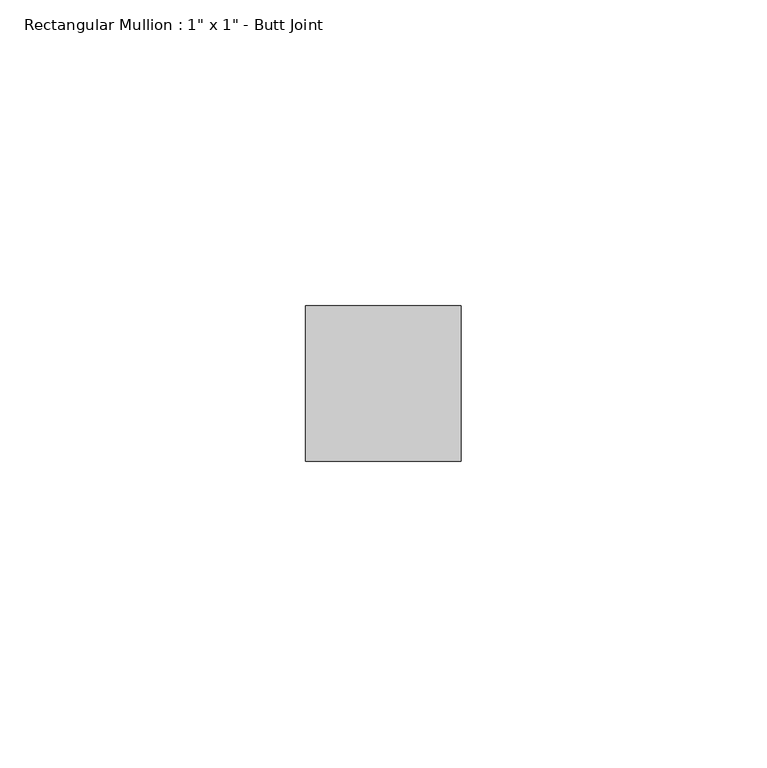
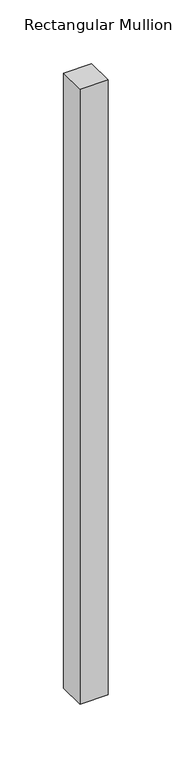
"""IFC4 building model written with IfcOpenShell, lengths in millimetres: member geometry."""

import ifcopenshell
import ifcopenshell.guid

model = None  # the IFC model being written
_history = None  # IfcOwnerHistory: only IFC2X3 demands one
_inside = {}  # id of a spatial element -> (the spatial element, [elements in it])
_under = {}  # id of a project, library or spatial element -> (it, [spatial elements below it])
_declared = {}  # id of a project -> (the project, [libraries it declares])
_typed = {}  # id of a type object -> (the type object, [elements of that type])
_made_of = {}  # id of a material, layer set ... -> (it, [elements and type objects made of it])


def new_model(schema):
    """Start an empty IFC model of exactly this schema.

    Asked for "IFC4X3", IfcOpenShell would pick the latest addendum, in which some entities
    have other attributes; the version numbers below select the first issue.
    IFC2X3 requires an IfcOwnerHistory on every rooted entity: one is made here for all.
    """
    global model, _history
    if schema == "IFC4X3":
        model = ifcopenshell.file(schema_version=(4, 3, 0, 0))
    else:
        model = ifcopenshell.file(schema=schema)
    _inside.clear()
    _under.clear()
    _declared.clear()
    _typed.clear()
    _made_of.clear()
    _history = None
    if model.schema == "IFC2X3":
        org = make("IfcOrganization", Name="unknown")
        user = make(
            "IfcPersonAndOrganization",
            ThePerson=make("IfcPerson", FamilyName="unknown"),
            TheOrganization=org,
        )
        app = make(
            "IfcApplication",
            ApplicationDeveloper=org,
            Version="unknown",
            ApplicationFullName="unknown",
            ApplicationIdentifier="unknown",
        )
        _history = make(
            "IfcOwnerHistory",
            OwningUser=user,
            OwningApplication=app,
            ChangeAction="ADDED",
            CreationDate=0,
        )
    return model


def make(cls, **values):
    """One entity of the class cls with the attributes given. An attribute that is None is left unset."""
    return model.create_entity(
        cls, **{name: value for name, value in values.items() if value is not None}
    )


def rooted(cls, **values):
    """An entity with a GlobalId (a new one), such as an element, a storey or a relation."""
    return make(cls, GlobalId=ifcopenshell.guid.new(), OwnerHistory=_history, **values)


def si_unit(unit_type, name, prefix=None):
    """IfcSIUnit, for example si_unit("LENGTHUNIT", "METRE", prefix="MILLI")."""
    return make("IfcSIUnit", UnitType=unit_type, Prefix=prefix, Name=name)


def assignment(units):
    """IfcUnitAssignment: the units of a project."""
    return None if units is None else make("IfcUnitAssignment", Units=units)


def point(xyz):
    """IfcCartesianPoint."""
    return None if xyz is None else make("IfcCartesianPoint", Coordinates=xyz)


def direction(xyz):
    """IfcDirection."""
    return None if xyz is None else make("IfcDirection", DirectionRatios=xyz)


def frame(location, z_axis=None, x_axis=None):
    """IfcAxis2Placement3D, a coordinate frame: its origin and axes. An axis left out is left unset."""
    return make(
        "IfcAxis2Placement3D",
        Location=point(location),
        Axis=direction(z_axis),
        RefDirection=direction(x_axis),
    )


def origin():
    """The frame at (0, 0, 0) with its axes left unset."""
    return frame((0.0, 0.0, 0.0))


def place(relative_to, where):
    """IfcLocalPlacement: puts the frame where relative to a parent placement (None: the world)."""
    return make(
        "IfcLocalPlacement", PlacementRelTo=relative_to, RelativePlacement=where
    )


def context(
    kind, dimensions, precision=None, world=None, true_north=None, identifier=None
):
    """IfcGeometricRepresentationContext, for example the 3D "Model" context."""
    return make(
        "IfcGeometricRepresentationContext",
        ContextIdentifier=identifier,
        ContextType=kind,
        CoordinateSpaceDimension=dimensions,
        Precision=precision,
        WorldCoordinateSystem=world,
        TrueNorth=true_north,
    )


def project(units=None, contexts=None):
    """IfcProject with its units and contexts."""
    return rooted(
        "IfcProject",
        Name="project",
        RepresentationContexts=contexts,
        UnitsInContext=assignment(units),
    )


def spatial(cls, under=None, at=None, **own):
    """A site, building, storey or space (cls), placed at a placement, below another one or the project."""
    s = rooted(cls, ObjectPlacement=at, **own)
    if under is not None:
        _under.setdefault(under.id(), (under, []))[1].append(s)
    return s


def polyline(points):
    """IfcPolyline through the points."""
    return make("IfcPolyline", Points=[point(p) for p in points])


def outline(outer, holes=None, kind="AREA"):
    """IfcArbitraryClosedProfileDef: a profile drawn as a closed curve; with holes, ...WithVoids."""
    if holes is None:
        return make("IfcArbitraryClosedProfileDef", ProfileType=kind, OuterCurve=outer)
    return make(
        "IfcArbitraryProfileDefWithVoids",
        ProfileType=kind,
        OuterCurve=outer,
        InnerCurves=holes,
    )


def extrude(swept, where, along, depth):
    """IfcExtrudedAreaSolid: the profile swept, set in the frame where, extruded along a direction by depth."""
    return make(
        "IfcExtrudedAreaSolid",
        SweptArea=swept,
        Position=where,
        ExtrudedDirection=direction(along),
        Depth=depth,
    )


def shape(context_of_items, identifier, shape_type, items):
    """IfcShapeRepresentation: the items that make up one representation, for example the "Body"."""
    return make(
        "IfcShapeRepresentation",
        ContextOfItems=context_of_items,
        RepresentationIdentifier=identifier,
        RepresentationType=shape_type,
        Items=items,
    )


def source(mapping_origin, context_of_items, identifier, shape_type, items):
    """IfcRepresentationMap: a shape defined once, which mapped items show again and again."""
    return make(
        "IfcRepresentationMap",
        MappingOrigin=mapping_origin,
        MappedRepresentation=shape(context_of_items, identifier, shape_type, items),
    )


def transform(
    local_origin,
    x_axis=None,
    y_axis=None,
    z_axis=None,
    scale=None,
    scale2=None,
    scale3=None,
    uniform=True,
):
    """IfcCartesianTransformationOperator3D, or its non-uniform kind. x_axis, y_axis, z_axis: its Axis1, 2, 3."""
    if uniform:
        return make(
            "IfcCartesianTransformationOperator3D",
            Axis1=direction(x_axis),
            Axis2=direction(y_axis),
            LocalOrigin=point(local_origin),
            Scale=scale,
            Axis3=direction(z_axis),
        )
    return make(
        "IfcCartesianTransformationOperator3DnonUniform",
        Axis1=direction(x_axis),
        Axis2=direction(y_axis),
        LocalOrigin=point(local_origin),
        Scale=scale,
        Axis3=direction(z_axis),
        Scale2=scale2,
        Scale3=scale3,
    )


def mapped(mapping_source, mapping_target):
    """IfcMappedItem: shows the shape of a source again, moved by a transform."""
    return make(
        "IfcMappedItem", MappingSource=mapping_source, MappingTarget=mapping_target
    )


def made_of(thing, what):
    """Note that an element or type object is made of a material, layer set ...; save() writes the relation."""
    if what is not None:
        _made_of.setdefault(what.id(), (what, []))[1].append(thing)
    return thing


def element(
    cls,
    number,
    at=None,
    inside=None,
    cuts=None,
    type_object=None,
    material=None,
    context=None,
    identifier="Body",
    shape_type=None,
    held_by="IfcProductDefinitionShape",
    body=None,
    shapes=None,
    **own,
):
    """One element of the class cls, such as IfcWall. Its Tag is "e" and its number.

    at: its placement. inside: the storey or other place that contains it. cuts: it is an
    opening in that element (IfcRelVoidsElement). A single representation is given by context,
    identifier, shape_type and body (its items); several are given by shapes. held_by: the class
    of the entity that holds the representations. save() writes the other relations.
    """
    e = rooted(cls, Tag="e%d" % number, ObjectPlacement=at, **own)
    if body is not None:
        shapes = [shape(context, identifier, shape_type, body)]
    if shapes is not None:
        e.Representation = make(held_by, Representations=shapes)
    if inside is not None:
        _inside.setdefault(inside.id(), (inside, []))[1].append(e)
    if cuts is not None:
        rooted(
            "IfcRelVoidsElement", RelatingBuildingElement=cuts, RelatedOpeningElement=e
        )
    if type_object is not None:
        _typed.setdefault(type_object.id(), (type_object, []))[1].append(e)
    return made_of(e, material)


def aggregate(whole, parts):
    """IfcRelAggregates: a whole, such as a stair, and the parts it consists of."""
    return rooted("IfcRelAggregates", RelatingObject=whole, RelatedObjects=parts)


def save(model, path):
    """Write the relations noted so far, then the file.

    IfcRelAggregates (storeys below a building ...), IfcRelContainedInSpatialStructure (elements
    in a storey), IfcRelDefinesByType, IfcRelAssociatesMaterial and IfcRelDeclares: one each for
    every whole, place, type object, material and project.
    """
    for whole, parts in _under.values():
        aggregate(whole, parts)
    for where, things in _inside.values():
        rooted(
            "IfcRelContainedInSpatialStructure",
            RelatedElements=things,
            RelatingStructure=where,
        )
    for kind, things in _typed.values():
        rooted("IfcRelDefinesByType", RelatedObjects=things, RelatingType=kind)
    for what, things in _made_of.values():
        rooted("IfcRelAssociatesMaterial", RelatedObjects=things, RelatingMaterial=what)
    for by, libraries in _declared.values():
        rooted("IfcRelDeclares", RelatingContext=by, RelatedDefinitions=libraries)
    model.write(path)


def member_eeb356eb(model_context):
    return source(origin(), model_context, "Body", "SweptSolid", [
        extrude(outline(polyline([(12.7, 12.7), (12.7, -12.7), (-12.7, -12.7), (-12.7, 12.7), (12.7, 12.7)])), frame((0.0, 0.0, -587.5848817), z_axis=(0.0, 0.0, 1.0), x_axis=(1.0, 0.0, 0.0)), (0.0, 0.0, 1.0), 587.5848817),
    ])


if __name__ == "__main__":
    model = new_model("IFC4")
    model_context = context("Model", 3, world=origin())
    ifc_project = project(units=[si_unit("LENGTHUNIT", "METRE", prefix="MILLI")], contexts=[model_context])
    site = spatial("IfcSite", under=ifc_project)
    building = spatial("IfcBuilding", under=site)
    placement = place(None, origin())
    member_shape = member_eeb356eb(model_context)
    element("IfcMember", 1, ObjectType="Rectangular Mullion : 1\" x 1\" - Butt Joint", at=placement, inside=building, context=model_context, shape_type="MappedRepresentation", body=[
        mapped(member_shape, transform((0.0, 0.0, 0.0), x_axis=(1.0, 0.0, 0.0), y_axis=(0.0, 1.0, 0.0), z_axis=(0.0, 0.0, 1.0))),
    ])
    save(model, "model.ifc")
